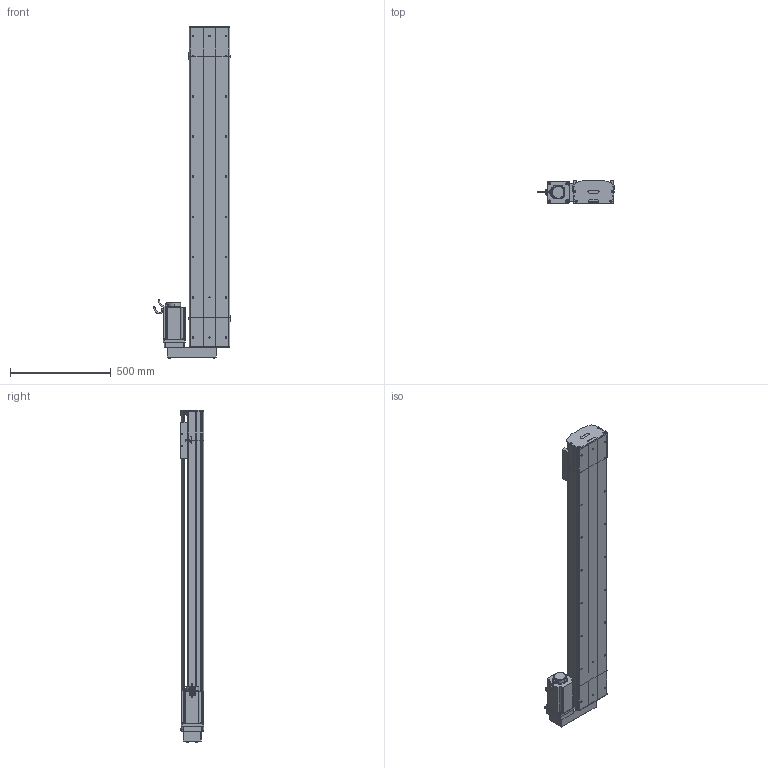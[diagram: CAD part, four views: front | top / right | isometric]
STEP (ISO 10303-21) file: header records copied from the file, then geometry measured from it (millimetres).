
FILE_DESCRIPTION (( 'STEP AP214' ), '1' );
FILE_NAME ('D20 TSH BL S1300.STEP', '2010-06-30T08:44:18', ( 'Conseil Régional Haute-Normandie' ), ( 'Conseil Régional Haute-Normandie' ), 'SwSTEP 2.0', 'SolidWorks 2010', '' );
FILE_SCHEMA (( 'AUTOMOTIVE_DESIGN' ));
Length unit declared in the file: millimetre
Products named in the file (35): Moteur motionking 110BLDC170A-640x; corps 110BLDC170A-630x; chariot D20S_Default; avant 110BLDC170A-630x; guide D20; clavette; Conecteur_Default; Conecteur2_Default; tete d''axe bas D20; corpl tail D20 +100_Default; Chariot D20; vis M5 L8 90°_Default; 2 vis M5 L12_Default; couvercle tail D20_Default; plaque de  bout tail D20_Default; codeur 110BLDC170A-630x; vis M8 L12_Default; vis M5 L25_Default; tail D20 +100_Default; vis M5 L70_Default; renvoi  BR_Default; Arbre+rail tail D20; tete d''axe haut D20; vis M5 L12_Default; couvercle D20 S1300_Default; course D20 L1300_Default; D20 TSH BL S1300; Plaque racord D20_Default; plaque de  bout head BR D20_Default; couvercle head l D20_Default; corp D20 S1300_Default; rail + arbre  D20 S1300; Arbre+rail head D20; head BL D20_Default; corpl head MD D20_Default
Assembly tree (59 placements, depth 4):
  D20 TSH BL S1300
    head BL D20_Default
      vis M5 L70_Default  x4
      vis M8 L12_Default  x4
      Moteur motionking 110BLDC170A-640x
        corps 110BLDC170A-630x
        Conecteur2_Default
        Conecteur_Default
        clavette
        avant 110BLDC170A-630x
        codeur 110BLDC170A-630x
      2 vis M5 L12_Default  x6
      plaque de  bout head BR D20_Default
      vis M5 L12_Default  x2
      vis M5 L25_Default  x2
      Arbre+rail head D20
      renvoi  BR_Default
      couvercle head l D20_Default
      corpl head MD D20_Default
      Plaque racord D20_Default
    tail D20 +100_Default
      vis M5 L25_Default  x2
      2 vis M5 L12_Default  x4
      vis M5 L8 90°_Default  x2
      Arbre+rail tail D20
      tete d''axe haut D20
      couvercle tail D20_Default
      plaque de  bout tail D20_Default
      tete d''axe bas D20
      corpl tail D20 +100_Default
    course D20 L1300_Default
      rail + arbre  D20 S1300
      corp D20 S1300_Default
      couvercle D20 S1300_Default
    chariot D20S_Default
      vis M5 L12_Default  x4
      Chariot D20
      guide D20  x2
Bounding box: 380 x 115.7 x 1651.7 mm (x, y, z)
Volume: 15250560.2 mm3; surface area: 3237182.3 mm2
Topology: 84 solids, 84 shells, 2364 faces, 5990 edges, 3871 vertices
Faces by surface type: plane 1392, cylinder 684, bspline 136, torus 77, cone 71, sphere 4
Entity records: 77865 total; most frequent: CARTESIAN_POINT 25691, ORIENTED_EDGE 9276, DIRECTION 8701, EDGE_CURVE 4638, VERTEX_POINT 3053, VECTOR 3023, LINE 3023, AXIS2_PLACEMENT_3D 2839
